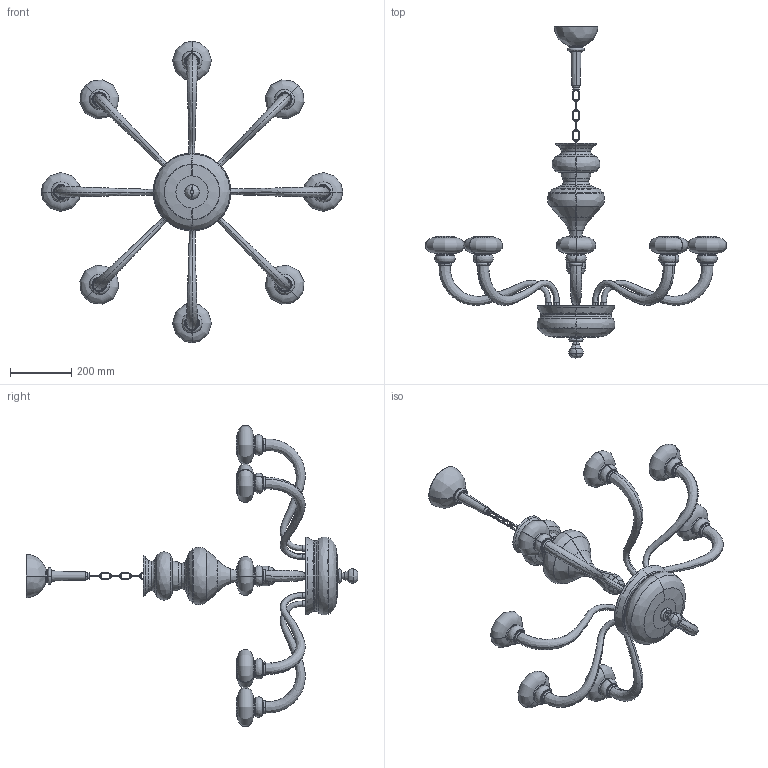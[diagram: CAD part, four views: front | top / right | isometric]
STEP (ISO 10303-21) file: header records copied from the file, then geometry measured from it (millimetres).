
FILE_DESCRIPTION (( 'STEP AP203' ), '1' );
FILE_NAME ('BOHEME L8_STEP.STEP', '2015-12-21T15:40:11', ( 'admin' ), ( '' ), 'SwSTEP 2.0', 'SolidWorks 2015', '' );
FILE_SCHEMA (( 'CONFIG_CONTROL_DESIGN' ));
Length unit declared in the file: millimetre
Products named in the file (2): BOHEME L8_STEP
Bounding box: 982.17 x 1081.96 x 982.17 mm (x, y, z)
Volume: 4578167.8 mm3; surface area: 1728869.7 mm2
Topology: 38 solids, 38 shells, 682 faces, 1438 edges, 850 vertices
Faces by surface type: bspline 402, cylinder 134, plane 134, cone 12
Entity records: 42917 total; most frequent: CARTESIAN_POINT 30801, ORIENTED_EDGE 2876, DIRECTION 2068, EDGE_CURVE 1438, AXIS2_PLACEMENT_3D 913, VERTEX_POINT 850, EDGE_LOOP 738, FACE_OUTER_BOUND 682
